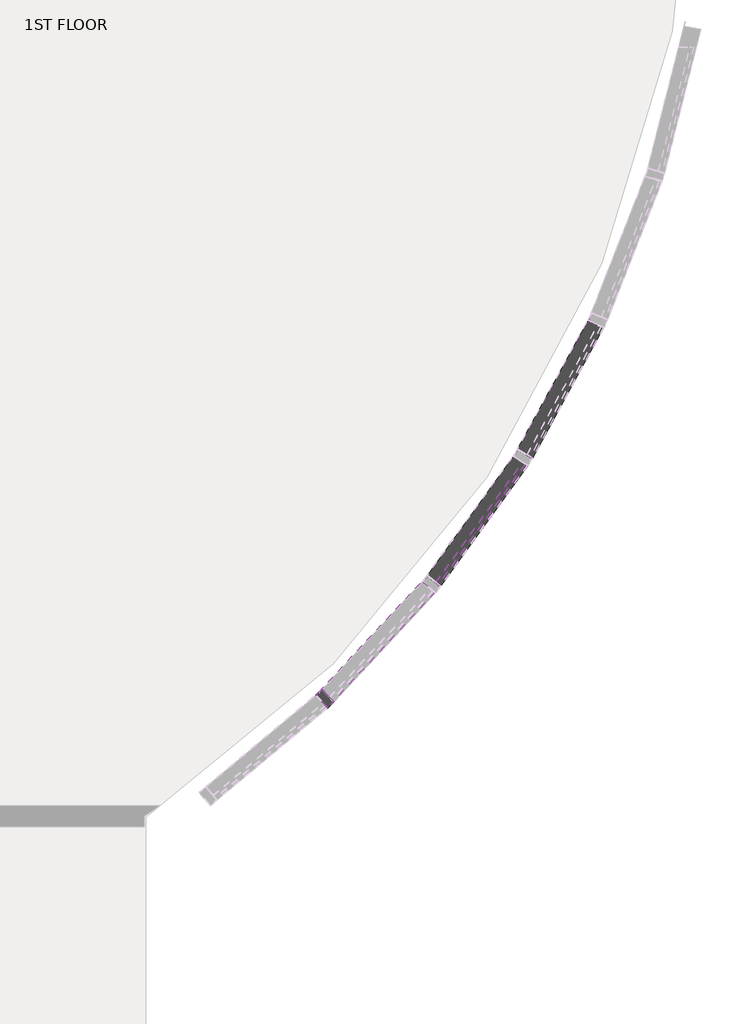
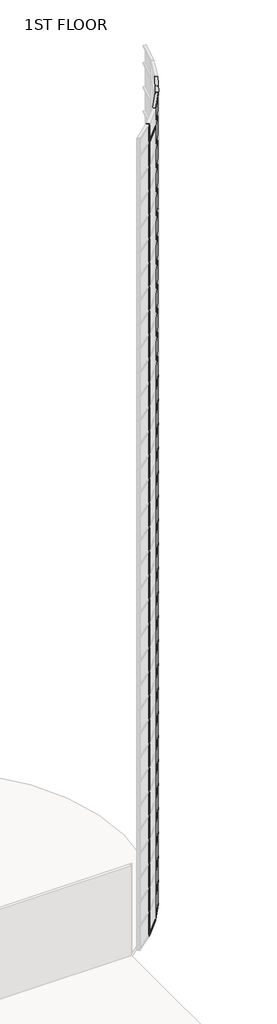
# One storey, part 5 of 17: 83 members, 34 plates.
"""IFC4 building model written with IfcOpenShell, lengths in millimetres."""

from ifc_helpers import new_model, si_unit, origin, place, context, project, spatial, transform, mapped, element, save
from components import member_56cb0dcd, member_0c249660, member_2b49869a, member_410c6227, system_panel_glazed_ce2914f7, system_panel_glazed_e049e42f, system_panel_glazed_5ae89cf9

model = new_model("IFC4")

# Units and contexts
model_context = context("Model", 3, world=origin())
ifc_project = project(units=[si_unit("LENGTHUNIT", "METRE", prefix="MILLI")], contexts=[model_context])

# Site, building, storey
site = spatial("IfcSite", under=ifc_project)
building = spatial("IfcBuilding", under=site)
storey = spatial("IfcBuildingStorey", under=building, Name="1ST FLOOR", Elevation=4572.0)

# Members
placement = place(None, origin())
member_shape = member_56cb0dcd(model_context)
element("IfcMember", 1, ObjectType="Rectangular Mullion : 2.5\" x 5\" rectangular", at=placement, inside=storey, context=model_context, shape_type="MappedRepresentation", body=[
    mapped(member_shape, transform((46857.1097029, 11989.3168429, 45720.0), x_axis=(0.0, 0.0, 1.0), y_axis=(-0.87765646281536, 0.479290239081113, 0.0), z_axis=(-0.479290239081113, -0.87765646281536, 0.0))),
])
element("IfcMember", 2, ObjectType="Rectangular Mullion : 2.5\" x 5\" rectangular", at=placement, inside=storey, context=model_context, shape_type="MappedRepresentation", body=[
    mapped(member_shape, transform((46181.1531398, 11045.2741552, 45720.0), x_axis=(0.0, 0.0, 1.0), y_axis=(-0.8110758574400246, 0.5849409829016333, 0.0), z_axis=(-0.5849409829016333, -0.8110758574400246, 0.0))),
])
element("IfcMember", 3, ObjectType="Rectangular Mullion : 2.5\" x 5\" rectangular", at=placement, inside=storey, context=model_context, shape_type="MappedRepresentation", body=[
    mapped(member_shape, transform((46823.3203616, 11935.6995918, 4572.0), x_axis=(0.0, 0.0, -1.0), y_axis=(-0.811075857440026, 0.5849409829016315, 0.0), z_axis=(0.5849409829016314, 0.8110758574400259, 0.0))),
])
element("IfcMember", 4, ObjectType="Rectangular Mullion : 2.5\" x 5\" rectangular", at=placement, inside=storey, context=model_context, shape_type="MappedRepresentation", body=[
    mapped(member_shape, transform((46140.9446058, 10996.2863711, 4572.0), x_axis=(0.0, 0.0, -1.0), y_axis=(-0.7318464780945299, 0.6814695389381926, 0.0), z_axis=(0.6814695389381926, 0.7318464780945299, 0.0))),
])
member_2_shape = member_0c249660(model_context)
element("IfcMember", 5, ObjectType="Rectangular Mullion : 2.5\" x 5\" rectangular", at=placement, inside=storey, context=model_context, shape_type="MappedRepresentation", body=[
    mapped(member_2_shape, transform((46857.1097029, 11989.3168429, 5791.2), x_axis=(0.0, 0.0, 1.0), y_axis=(-0.8776564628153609, 0.47929023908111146, 0.0), z_axis=(-0.47929023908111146, -0.8776564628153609, 0.0))),
])
element("IfcMember", 6, ObjectType="Rectangular Mullion : 2.5\" x 5\" rectangular", at=placement, inside=storey, context=model_context, shape_type="MappedRepresentation", body=[
    mapped(member_2_shape, transform((46181.1531398, 11045.2741552, 5791.2), x_axis=(0.0, 0.0, 1.0), y_axis=(-0.8110758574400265, 0.5849409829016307, 0.0), z_axis=(-0.5849409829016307, -0.8110758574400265, 0.0))),
])
element("IfcMember", 7, ObjectType="Rectangular Mullion : 2.5\" x 5\" rectangular", at=placement, inside=storey, context=model_context, shape_type="MappedRepresentation", body=[
    mapped(member_2_shape, transform((46857.1097029, 11989.3168429, 7010.4), x_axis=(0.0, 0.0, 1.0), y_axis=(-0.8776564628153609, 0.47929023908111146, 0.0), z_axis=(-0.47929023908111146, -0.8776564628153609, 0.0))),
])
element("IfcMember", 8, ObjectType="Rectangular Mullion : 2.5\" x 5\" rectangular", at=placement, inside=storey, context=model_context, shape_type="MappedRepresentation", body=[
    mapped(member_2_shape, transform((46181.1531398, 11045.2741552, 7010.4), x_axis=(0.0, 0.0, 1.0), y_axis=(-0.8110758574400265, 0.5849409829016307, 0.0), z_axis=(-0.5849409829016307, -0.8110758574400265, 0.0))),
])
element("IfcMember", 9, ObjectType="Rectangular Mullion : 2.5\" x 5\" rectangular", at=placement, inside=storey, context=model_context, shape_type="MappedRepresentation", body=[
    mapped(member_2_shape, transform((46857.1097029, 11989.3168429, 8229.6), x_axis=(0.0, 0.0, 1.0), y_axis=(-0.87765646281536, 0.479290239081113, 0.0), z_axis=(-0.479290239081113, -0.87765646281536, 0.0))),
])
element("IfcMember", 10, ObjectType="Rectangular Mullion : 2.5\" x 5\" rectangular", at=placement, inside=storey, context=model_context, shape_type="MappedRepresentation", body=[
    mapped(member_2_shape, transform((46181.1531398, 11045.2741552, 8229.6), x_axis=(0.0, 0.0, 1.0), y_axis=(-0.8110758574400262, 0.5849409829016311, 0.0), z_axis=(-0.5849409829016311, -0.8110758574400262, 0.0))),
])
element("IfcMember", 11, ObjectType="Rectangular Mullion : 2.5\" x 5\" rectangular", at=placement, inside=storey, context=model_context, shape_type="MappedRepresentation", body=[
    mapped(member_2_shape, transform((46857.1097029, 11989.3168429, 9448.8), x_axis=(0.0, 0.0, 1.0), y_axis=(-0.87765646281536, 0.479290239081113, 0.0), z_axis=(-0.479290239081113, -0.87765646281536, 0.0))),
])
element("IfcMember", 12, ObjectType="Rectangular Mullion : 2.5\" x 5\" rectangular", at=placement, inside=storey, context=model_context, shape_type="MappedRepresentation", body=[
    mapped(member_2_shape, transform((46181.1531398, 11045.2741552, 9448.8), x_axis=(0.0, 0.0, 1.0), y_axis=(-0.8110758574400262, 0.5849409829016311, 0.0), z_axis=(-0.5849409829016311, -0.8110758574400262, 0.0))),
])
element("IfcMember", 13, ObjectType="Rectangular Mullion : 2.5\" x 5\" rectangular", at=placement, inside=storey, context=model_context, shape_type="MappedRepresentation", body=[
    mapped(member_2_shape, transform((46857.1097029, 11989.3168429, 10668.0), x_axis=(0.0, 0.0, 1.0), y_axis=(-0.87765646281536, 0.479290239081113, 0.0), z_axis=(-0.479290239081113, -0.87765646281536, 0.0))),
])
element("IfcMember", 14, ObjectType="Rectangular Mullion : 2.5\" x 5\" rectangular", at=placement, inside=storey, context=model_context, shape_type="MappedRepresentation", body=[
    mapped(member_2_shape, transform((46181.1531398, 11045.2741552, 10668.0), x_axis=(0.0, 0.0, 1.0), y_axis=(-0.8110758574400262, 0.5849409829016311, 0.0), z_axis=(-0.5849409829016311, -0.8110758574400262, 0.0))),
])
element("IfcMember", 15, ObjectType="Rectangular Mullion : 2.5\" x 5\" rectangular", at=placement, inside=storey, context=model_context, shape_type="MappedRepresentation", body=[
    mapped(member_2_shape, transform((46857.1097029, 11989.3168429, 11887.2), x_axis=(0.0, 0.0, 1.0), y_axis=(-0.87765646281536, 0.479290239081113, 0.0), z_axis=(-0.479290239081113, -0.87765646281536, 0.0))),
])
element("IfcMember", 16, ObjectType="Rectangular Mullion : 2.5\" x 5\" rectangular", at=placement, inside=storey, context=model_context, shape_type="MappedRepresentation", body=[
    mapped(member_2_shape, transform((46181.1531398, 11045.2741552, 11887.2), x_axis=(0.0, 0.0, 1.0), y_axis=(-0.8110758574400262, 0.5849409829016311, 0.0), z_axis=(-0.5849409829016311, -0.8110758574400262, 0.0))),
])
element("IfcMember", 17, ObjectType="Rectangular Mullion : 2.5\" x 5\" rectangular", at=placement, inside=storey, context=model_context, shape_type="MappedRepresentation", body=[
    mapped(member_2_shape, transform((46857.1097029, 11989.3168429, 13106.4), x_axis=(0.0, 0.0, 1.0), y_axis=(-0.87765646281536, 0.479290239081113, 0.0), z_axis=(-0.479290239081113, -0.87765646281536, 0.0))),
])
element("IfcMember", 18, ObjectType="Rectangular Mullion : 2.5\" x 5\" rectangular", at=placement, inside=storey, context=model_context, shape_type="MappedRepresentation", body=[
    mapped(member_2_shape, transform((46181.1531398, 11045.2741552, 13106.4), x_axis=(0.0, 0.0, 1.0), y_axis=(-0.8110758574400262, 0.5849409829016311, 0.0), z_axis=(-0.5849409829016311, -0.8110758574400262, 0.0))),
])
element("IfcMember", 19, ObjectType="Rectangular Mullion : 2.5\" x 5\" rectangular", at=placement, inside=storey, context=model_context, shape_type="MappedRepresentation", body=[
    mapped(member_2_shape, transform((46857.1097029, 11989.3168429, 14325.6), x_axis=(0.0, 0.0, 1.0), y_axis=(-0.87765646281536, 0.479290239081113, 0.0), z_axis=(-0.479290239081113, -0.87765646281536, 0.0))),
])
element("IfcMember", 20, ObjectType="Rectangular Mullion : 2.5\" x 5\" rectangular", at=placement, inside=storey, context=model_context, shape_type="MappedRepresentation", body=[
    mapped(member_2_shape, transform((46181.1531398, 11045.2741552, 14325.6), x_axis=(0.0, 0.0, 1.0), y_axis=(-0.8110758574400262, 0.5849409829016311, 0.0), z_axis=(-0.5849409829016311, -0.8110758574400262, 0.0))),
])
element("IfcMember", 21, ObjectType="Rectangular Mullion : 2.5\" x 5\" rectangular", at=placement, inside=storey, context=model_context, shape_type="MappedRepresentation", body=[
    mapped(member_2_shape, transform((46857.1097029, 11989.3168429, 15544.8), x_axis=(0.0, 0.0, 1.0), y_axis=(-0.87765646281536, 0.479290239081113, 0.0), z_axis=(-0.479290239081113, -0.87765646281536, 0.0))),
])
element("IfcMember", 22, ObjectType="Rectangular Mullion : 2.5\" x 5\" rectangular", at=placement, inside=storey, context=model_context, shape_type="MappedRepresentation", body=[
    mapped(member_2_shape, transform((46181.1531398, 11045.2741552, 15544.8), x_axis=(0.0, 0.0, 1.0), y_axis=(-0.8110758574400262, 0.5849409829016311, 0.0), z_axis=(-0.5849409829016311, -0.8110758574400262, 0.0))),
])
element("IfcMember", 23, ObjectType="Rectangular Mullion : 2.5\" x 5\" rectangular", at=placement, inside=storey, context=model_context, shape_type="MappedRepresentation", body=[
    mapped(member_2_shape, transform((46857.1097029, 11989.3168429, 16764.0), x_axis=(0.0, 0.0, 1.0), y_axis=(-0.87765646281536, 0.479290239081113, 0.0), z_axis=(-0.479290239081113, -0.87765646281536, 0.0))),
])
element("IfcMember", 24, ObjectType="Rectangular Mullion : 2.5\" x 5\" rectangular", at=placement, inside=storey, context=model_context, shape_type="MappedRepresentation", body=[
    mapped(member_2_shape, transform((46181.1531398, 11045.2741552, 16764.0), x_axis=(0.0, 0.0, 1.0), y_axis=(-0.8110758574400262, 0.5849409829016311, 0.0), z_axis=(-0.5849409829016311, -0.8110758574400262, 0.0))),
])
element("IfcMember", 25, ObjectType="Rectangular Mullion : 2.5\" x 5\" rectangular", at=placement, inside=storey, context=model_context, shape_type="MappedRepresentation", body=[
    mapped(member_2_shape, transform((46857.1097029, 11989.3168429, 17983.2), x_axis=(0.0, 0.0, 1.0), y_axis=(-0.87765646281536, 0.479290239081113, 0.0), z_axis=(-0.479290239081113, -0.87765646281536, 0.0))),
])
element("IfcMember", 26, ObjectType="Rectangular Mullion : 2.5\" x 5\" rectangular", at=placement, inside=storey, context=model_context, shape_type="MappedRepresentation", body=[
    mapped(member_2_shape, transform((46181.1531398, 11045.2741552, 17983.2), x_axis=(0.0, 0.0, 1.0), y_axis=(-0.8110758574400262, 0.5849409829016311, 0.0), z_axis=(-0.5849409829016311, -0.8110758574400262, 0.0))),
])
element("IfcMember", 27, ObjectType="Rectangular Mullion : 2.5\" x 5\" rectangular", at=placement, inside=storey, context=model_context, shape_type="MappedRepresentation", body=[
    mapped(member_2_shape, transform((46857.1097029, 11989.3168429, 19202.4), x_axis=(0.0, 0.0, 1.0), y_axis=(-0.8776564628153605, 0.47929023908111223, 0.0), z_axis=(-0.47929023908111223, -0.8776564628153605, 0.0))),
])
element("IfcMember", 28, ObjectType="Rectangular Mullion : 2.5\" x 5\" rectangular", at=placement, inside=storey, context=model_context, shape_type="MappedRepresentation", body=[
    mapped(member_2_shape, transform((46181.1531398, 11045.2741552, 19202.4), x_axis=(0.0, 0.0, 1.0), y_axis=(-0.8110758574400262, 0.5849409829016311, 0.0), z_axis=(-0.5849409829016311, -0.8110758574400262, 0.0))),
])
element("IfcMember", 29, ObjectType="Rectangular Mullion : 2.5\" x 5\" rectangular", at=placement, inside=storey, context=model_context, shape_type="MappedRepresentation", body=[
    mapped(member_2_shape, transform((46857.1097029, 11989.3168429, 20421.6), x_axis=(0.0, 0.0, 1.0), y_axis=(-0.877656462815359, 0.4792902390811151, 0.0), z_axis=(-0.47929023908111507, -0.8776564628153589, 0.0))),
])
element("IfcMember", 30, ObjectType="Rectangular Mullion : 2.5\" x 5\" rectangular", at=placement, inside=storey, context=model_context, shape_type="MappedRepresentation", body=[
    mapped(member_2_shape, transform((46181.1531398, 11045.2741552, 20421.6), x_axis=(0.0, 0.0, 1.0), y_axis=(-0.8110758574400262, 0.5849409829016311, 0.0), z_axis=(-0.5849409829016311, -0.8110758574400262, 0.0))),
])
element("IfcMember", 31, ObjectType="Rectangular Mullion : 2.5\" x 5\" rectangular", at=placement, inside=storey, context=model_context, shape_type="MappedRepresentation", body=[
    mapped(member_2_shape, transform((46857.1097029, 11989.3168429, 21640.8), x_axis=(0.0, 0.0, 1.0), y_axis=(-0.877656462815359, 0.4792902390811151, 0.0), z_axis=(-0.47929023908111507, -0.8776564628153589, 0.0))),
])
element("IfcMember", 32, ObjectType="Rectangular Mullion : 2.5\" x 5\" rectangular", at=placement, inside=storey, context=model_context, shape_type="MappedRepresentation", body=[
    mapped(member_2_shape, transform((46181.1531398, 11045.2741552, 21640.8), x_axis=(0.0, 0.0, 1.0), y_axis=(-0.8110758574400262, 0.5849409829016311, 0.0), z_axis=(-0.5849409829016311, -0.8110758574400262, 0.0))),
])
element("IfcMember", 33, ObjectType="Rectangular Mullion : 2.5\" x 5\" rectangular", at=placement, inside=storey, context=model_context, shape_type="MappedRepresentation", body=[
    mapped(member_2_shape, transform((46857.1097029, 11989.3168429, 22860.0), x_axis=(0.0, 0.0, 1.0), y_axis=(-0.8776564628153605, 0.47929023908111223, 0.0), z_axis=(-0.47929023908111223, -0.8776564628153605, 0.0))),
])
element("IfcMember", 34, ObjectType="Rectangular Mullion : 2.5\" x 5\" rectangular", at=placement, inside=storey, context=model_context, shape_type="MappedRepresentation", body=[
    mapped(member_2_shape, transform((46181.1531398, 11045.2741552, 22860.0), x_axis=(0.0, 0.0, 1.0), y_axis=(-0.8110758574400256, 0.584940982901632, 0.0), z_axis=(-0.584940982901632, -0.8110758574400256, 0.0))),
])
element("IfcMember", 35, ObjectType="Rectangular Mullion : 2.5\" x 5\" rectangular", at=placement, inside=storey, context=model_context, shape_type="MappedRepresentation", body=[
    mapped(member_2_shape, transform((46857.1097029, 11989.3168429, 24079.2), x_axis=(0.0, 0.0, 1.0), y_axis=(-0.8776564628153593, 0.4792902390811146, 0.0), z_axis=(-0.47929023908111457, -0.8776564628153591, 0.0))),
])
element("IfcMember", 36, ObjectType="Rectangular Mullion : 2.5\" x 5\" rectangular", at=placement, inside=storey, context=model_context, shape_type="MappedRepresentation", body=[
    mapped(member_2_shape, transform((46181.1531398, 11045.2741552, 24079.2), x_axis=(0.0, 0.0, 1.0), y_axis=(-0.8110758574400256, 0.584940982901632, 0.0), z_axis=(-0.584940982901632, -0.8110758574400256, 0.0))),
])
element("IfcMember", 37, ObjectType="Rectangular Mullion : 2.5\" x 5\" rectangular", at=placement, inside=storey, context=model_context, shape_type="MappedRepresentation", body=[
    mapped(member_2_shape, transform((46857.1097029, 11989.3168429, 25298.4), x_axis=(0.0, 0.0, 1.0), y_axis=(-0.8776564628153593, 0.4792902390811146, 0.0), z_axis=(-0.47929023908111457, -0.8776564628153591, 0.0))),
])
element("IfcMember", 38, ObjectType="Rectangular Mullion : 2.5\" x 5\" rectangular", at=placement, inside=storey, context=model_context, shape_type="MappedRepresentation", body=[
    mapped(member_2_shape, transform((46181.1531398, 11045.2741552, 25298.4), x_axis=(0.0, 0.0, 1.0), y_axis=(-0.8110758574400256, 0.584940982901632, 0.0), z_axis=(-0.584940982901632, -0.8110758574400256, 0.0))),
])
element("IfcMember", 39, ObjectType="Rectangular Mullion : 2.5\" x 5\" rectangular", at=placement, inside=storey, context=model_context, shape_type="MappedRepresentation", body=[
    mapped(member_2_shape, transform((46857.1097029, 11989.3168429, 26517.6), x_axis=(0.0, 0.0, 1.0), y_axis=(-0.8776564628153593, 0.4792902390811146, 0.0), z_axis=(-0.47929023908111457, -0.8776564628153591, 0.0))),
])
element("IfcMember", 40, ObjectType="Rectangular Mullion : 2.5\" x 5\" rectangular", at=placement, inside=storey, context=model_context, shape_type="MappedRepresentation", body=[
    mapped(member_2_shape, transform((46181.1531398, 11045.2741552, 26517.6), x_axis=(0.0, 0.0, 1.0), y_axis=(-0.8110758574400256, 0.584940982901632, 0.0), z_axis=(-0.584940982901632, -0.8110758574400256, 0.0))),
])
element("IfcMember", 41, ObjectType="Rectangular Mullion : 2.5\" x 5\" rectangular", at=placement, inside=storey, context=model_context, shape_type="MappedRepresentation", body=[
    mapped(member_2_shape, transform((46857.1097029, 11989.3168429, 27736.8), x_axis=(0.0, 0.0, 1.0), y_axis=(-0.8776564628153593, 0.4792902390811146, 0.0), z_axis=(-0.47929023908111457, -0.8776564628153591, 0.0))),
])
element("IfcMember", 42, ObjectType="Rectangular Mullion : 2.5\" x 5\" rectangular", at=placement, inside=storey, context=model_context, shape_type="MappedRepresentation", body=[
    mapped(member_2_shape, transform((46181.1531398, 11045.2741552, 27736.8), x_axis=(0.0, 0.0, 1.0), y_axis=(-0.8110758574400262, 0.5849409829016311, 0.0), z_axis=(-0.5849409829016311, -0.8110758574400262, 0.0))),
])
element("IfcMember", 43, ObjectType="Rectangular Mullion : 2.5\" x 5\" rectangular", at=placement, inside=storey, context=model_context, shape_type="MappedRepresentation", body=[
    mapped(member_2_shape, transform((46857.1097029, 11989.3168429, 28956.0), x_axis=(0.0, 0.0, 1.0), y_axis=(-0.8776564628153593, 0.4792902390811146, 0.0), z_axis=(-0.47929023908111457, -0.8776564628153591, 0.0))),
])
element("IfcMember", 44, ObjectType="Rectangular Mullion : 2.5\" x 5\" rectangular", at=placement, inside=storey, context=model_context, shape_type="MappedRepresentation", body=[
    mapped(member_2_shape, transform((46181.1531398, 11045.2741552, 28956.0), x_axis=(0.0, 0.0, 1.0), y_axis=(-0.8110758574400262, 0.5849409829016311, 0.0), z_axis=(-0.5849409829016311, -0.8110758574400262, 0.0))),
])
element("IfcMember", 45, ObjectType="Rectangular Mullion : 2.5\" x 5\" rectangular", at=placement, inside=storey, context=model_context, shape_type="MappedRepresentation", body=[
    mapped(member_2_shape, transform((46857.1097029, 11989.3168429, 30175.2), x_axis=(0.0, 0.0, 1.0), y_axis=(-0.87765646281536, 0.479290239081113, 0.0), z_axis=(-0.479290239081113, -0.87765646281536, 0.0))),
])
element("IfcMember", 46, ObjectType="Rectangular Mullion : 2.5\" x 5\" rectangular", at=placement, inside=storey, context=model_context, shape_type="MappedRepresentation", body=[
    mapped(member_2_shape, transform((46181.1531398, 11045.2741552, 30175.2), x_axis=(0.0, 0.0, 1.0), y_axis=(-0.8110758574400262, 0.5849409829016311, 0.0), z_axis=(-0.5849409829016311, -0.8110758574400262, 0.0))),
])
element("IfcMember", 47, ObjectType="Rectangular Mullion : 2.5\" x 5\" rectangular", at=placement, inside=storey, context=model_context, shape_type="MappedRepresentation", body=[
    mapped(member_2_shape, transform((46857.1097029, 11989.3168429, 31394.4), x_axis=(0.0, 0.0, 1.0), y_axis=(-0.87765646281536, 0.479290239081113, 0.0), z_axis=(-0.479290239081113, -0.87765646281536, 0.0))),
])
element("IfcMember", 48, ObjectType="Rectangular Mullion : 2.5\" x 5\" rectangular", at=placement, inside=storey, context=model_context, shape_type="MappedRepresentation", body=[
    mapped(member_2_shape, transform((46181.1531398, 11045.2741552, 31394.4), x_axis=(0.0, 0.0, 1.0), y_axis=(-0.8110758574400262, 0.5849409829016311, 0.0), z_axis=(-0.5849409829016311, -0.8110758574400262, 0.0))),
])
element("IfcMember", 49, ObjectType="Rectangular Mullion : 2.5\" x 5\" rectangular", at=placement, inside=storey, context=model_context, shape_type="MappedRepresentation", body=[
    mapped(member_2_shape, transform((45392.8051979, 10192.8415222, 44805.6), x_axis=(0.0, 0.0, 1.0), y_axis=(-0.7318464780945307, 0.6814695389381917, 0.0), z_axis=(-0.6814695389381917, -0.7318464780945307, 0.0))),
])
member_3_shape = member_2b49869a(model_context)
element("IfcMember", 50, ObjectType="Rectangular Mullion : 2.5\" x 5\" rectangular", at=placement, inside=storey, context=model_context, shape_type="MappedRepresentation", body=[
    mapped(member_3_shape, transform((45371.1685401, 10169.6053965, 4572.0), x_axis=(-0.7258363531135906, -0.6878674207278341, 0.0), y_axis=(-0.6878674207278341, 0.7258363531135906, 0.0), z_axis=(0.0, 0.0, -1.0))),
])
element("IfcMember", 51, ObjectType="Rectangular Mullion : 2.5\" x 5\" rectangular", at=placement, inside=storey, context=model_context, shape_type="MappedRepresentation", body=[
    mapped(member_3_shape, transform((45371.1685401, 10169.6053965, 5791.2), x_axis=(-0.7258363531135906, -0.6878674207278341, 0.0), y_axis=(-0.6878674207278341, 0.7258363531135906, 0.0), z_axis=(0.0, 0.0, -1.0))),
])
element("IfcMember", 52, ObjectType="Rectangular Mullion : 2.5\" x 5\" rectangular", at=placement, inside=storey, context=model_context, shape_type="MappedRepresentation", body=[
    mapped(member_3_shape, transform((45371.1685401, 10169.6053965, 7010.4), x_axis=(-0.7258363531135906, -0.6878674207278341, 0.0), y_axis=(-0.6878674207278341, 0.7258363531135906, 0.0), z_axis=(0.0, 0.0, -1.0))),
])
element("IfcMember", 53, ObjectType="Rectangular Mullion : 2.5\" x 5\" rectangular", at=placement, inside=storey, context=model_context, shape_type="MappedRepresentation", body=[
    mapped(member_3_shape, transform((45371.1685401, 10169.6053965, 8229.6), x_axis=(-0.7258363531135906, -0.6878674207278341, 0.0), y_axis=(-0.6878674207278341, 0.7258363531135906, 0.0), z_axis=(0.0, 0.0, -1.0))),
])
element("IfcMember", 54, ObjectType="Rectangular Mullion : 2.5\" x 5\" rectangular", at=placement, inside=storey, context=model_context, shape_type="MappedRepresentation", body=[
    mapped(member_3_shape, transform((45371.1685401, 10169.6053965, 9448.8), x_axis=(-0.7258363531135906, -0.6878674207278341, 0.0), y_axis=(-0.6878674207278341, 0.7258363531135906, 0.0), z_axis=(0.0, 0.0, -1.0))),
])
element("IfcMember", 55, ObjectType="Rectangular Mullion : 2.5\" x 5\" rectangular", at=placement, inside=storey, context=model_context, shape_type="MappedRepresentation", body=[
    mapped(member_3_shape, transform((45371.1685401, 10169.6053965, 10668.0), x_axis=(-0.7258363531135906, -0.6878674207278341, 0.0), y_axis=(-0.6878674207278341, 0.7258363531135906, 0.0), z_axis=(0.0, 0.0, -1.0))),
])
element("IfcMember", 56, ObjectType="Rectangular Mullion : 2.5\" x 5\" rectangular", at=placement, inside=storey, context=model_context, shape_type="MappedRepresentation", body=[
    mapped(member_3_shape, transform((45371.1685401, 10169.6053965, 11887.2), x_axis=(-0.7258363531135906, -0.6878674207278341, 0.0), y_axis=(-0.6878674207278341, 0.7258363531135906, 0.0), z_axis=(0.0, 0.0, -1.0))),
])
element("IfcMember", 57, ObjectType="Rectangular Mullion : 2.5\" x 5\" rectangular", at=placement, inside=storey, context=model_context, shape_type="MappedRepresentation", body=[
    mapped(member_3_shape, transform((45371.1685401, 10169.6053965, 13106.4), x_axis=(-0.7258363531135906, -0.6878674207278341, 0.0), y_axis=(-0.6878674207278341, 0.7258363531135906, 0.0), z_axis=(0.0, 0.0, -1.0))),
])
element("IfcMember", 58, ObjectType="Rectangular Mullion : 2.5\" x 5\" rectangular", at=placement, inside=storey, context=model_context, shape_type="MappedRepresentation", body=[
    mapped(member_3_shape, transform((45371.1685401, 10169.6053965, 14325.6), x_axis=(-0.7258363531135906, -0.6878674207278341, 0.0), y_axis=(-0.6878674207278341, 0.7258363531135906, 0.0), z_axis=(0.0, 0.0, -1.0))),
])
element("IfcMember", 59, ObjectType="Rectangular Mullion : 2.5\" x 5\" rectangular", at=placement, inside=storey, context=model_context, shape_type="MappedRepresentation", body=[
    mapped(member_3_shape, transform((45371.1685401, 10169.6053965, 15544.8), x_axis=(-0.7258363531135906, -0.6878674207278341, 0.0), y_axis=(-0.6878674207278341, 0.7258363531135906, 0.0), z_axis=(0.0, 0.0, -1.0))),
])
element("IfcMember", 60, ObjectType="Rectangular Mullion : 2.5\" x 5\" rectangular", at=placement, inside=storey, context=model_context, shape_type="MappedRepresentation", body=[
    mapped(member_3_shape, transform((45371.1685401, 10169.6053965, 16764.0), x_axis=(-0.7258363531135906, -0.6878674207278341, 0.0), y_axis=(-0.6878674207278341, 0.7258363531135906, 0.0), z_axis=(0.0, 0.0, -1.0))),
])
element("IfcMember", 61, ObjectType="Rectangular Mullion : 2.5\" x 5\" rectangular", at=placement, inside=storey, context=model_context, shape_type="MappedRepresentation", body=[
    mapped(member_3_shape, transform((45371.1685401, 10169.6053965, 17983.2), x_axis=(-0.7258363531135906, -0.6878674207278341, 0.0), y_axis=(-0.6878674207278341, 0.7258363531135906, 0.0), z_axis=(0.0, 0.0, -1.0))),
])
element("IfcMember", 62, ObjectType="Rectangular Mullion : 2.5\" x 5\" rectangular", at=placement, inside=storey, context=model_context, shape_type="MappedRepresentation", body=[
    mapped(member_3_shape, transform((45371.1685401, 10169.6053965, 19202.4), x_axis=(-0.7258363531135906, -0.6878674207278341, 0.0), y_axis=(-0.6878674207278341, 0.7258363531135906, 0.0), z_axis=(0.0, 0.0, -1.0))),
])
element("IfcMember", 63, ObjectType="Rectangular Mullion : 2.5\" x 5\" rectangular", at=placement, inside=storey, context=model_context, shape_type="MappedRepresentation", body=[
    mapped(member_3_shape, transform((45371.1685401, 10169.6053965, 20421.6), x_axis=(-0.7258363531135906, -0.6878674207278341, 0.0), y_axis=(-0.6878674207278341, 0.7258363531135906, 0.0), z_axis=(0.0, 0.0, -1.0))),
])
element("IfcMember", 64, ObjectType="Rectangular Mullion : 2.5\" x 5\" rectangular", at=placement, inside=storey, context=model_context, shape_type="MappedRepresentation", body=[
    mapped(member_3_shape, transform((45371.1685401, 10169.6053965, 21640.8), x_axis=(-0.7258363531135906, -0.6878674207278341, 0.0), y_axis=(-0.6878674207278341, 0.7258363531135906, 0.0), z_axis=(0.0, 0.0, -1.0))),
])
element("IfcMember", 65, ObjectType="Rectangular Mullion : 2.5\" x 5\" rectangular", at=placement, inside=storey, context=model_context, shape_type="MappedRepresentation", body=[
    mapped(member_3_shape, transform((45371.1685401, 10169.6053965, 22860.0), x_axis=(-0.7258363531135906, -0.6878674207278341, 0.0), y_axis=(-0.6878674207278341, 0.7258363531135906, 0.0), z_axis=(0.0, 0.0, -1.0))),
])
element("IfcMember", 66, ObjectType="Rectangular Mullion : 2.5\" x 5\" rectangular", at=placement, inside=storey, context=model_context, shape_type="MappedRepresentation", body=[
    mapped(member_3_shape, transform((45371.1685401, 10169.6053965, 24079.2), x_axis=(-0.7258363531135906, -0.6878674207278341, 0.0), y_axis=(-0.6878674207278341, 0.7258363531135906, 0.0), z_axis=(0.0, 0.0, -1.0))),
])
element("IfcMember", 67, ObjectType="Rectangular Mullion : 2.5\" x 5\" rectangular", at=placement, inside=storey, context=model_context, shape_type="MappedRepresentation", body=[
    mapped(member_3_shape, transform((45371.1685401, 10169.6053965, 25298.4), x_axis=(-0.7258363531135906, -0.6878674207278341, 0.0), y_axis=(-0.6878674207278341, 0.7258363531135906, 0.0), z_axis=(0.0, 0.0, -1.0))),
])
element("IfcMember", 68, ObjectType="Rectangular Mullion : 2.5\" x 5\" rectangular", at=placement, inside=storey, context=model_context, shape_type="MappedRepresentation", body=[
    mapped(member_3_shape, transform((45371.1685401, 10169.6053965, 26517.6), x_axis=(-0.7258363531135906, -0.6878674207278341, 0.0), y_axis=(-0.6878674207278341, 0.7258363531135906, 0.0), z_axis=(0.0, 0.0, -1.0))),
])
element("IfcMember", 69, ObjectType="Rectangular Mullion : 2.5\" x 5\" rectangular", at=placement, inside=storey, context=model_context, shape_type="MappedRepresentation", body=[
    mapped(member_3_shape, transform((45371.1685401, 10169.6053965, 27736.8), x_axis=(-0.7258363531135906, -0.6878674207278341, 0.0), y_axis=(-0.6878674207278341, 0.7258363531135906, 0.0), z_axis=(0.0, 0.0, -1.0))),
])
element("IfcMember", 70, ObjectType="Rectangular Mullion : 2.5\" x 5\" rectangular", at=placement, inside=storey, context=model_context, shape_type="MappedRepresentation", body=[
    mapped(member_3_shape, transform((45371.1685401, 10169.6053965, 28956.0), x_axis=(-0.7258363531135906, -0.6878674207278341, 0.0), y_axis=(-0.6878674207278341, 0.7258363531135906, 0.0), z_axis=(0.0, 0.0, -1.0))),
])
element("IfcMember", 71, ObjectType="Rectangular Mullion : 2.5\" x 5\" rectangular", at=placement, inside=storey, context=model_context, shape_type="MappedRepresentation", body=[
    mapped(member_3_shape, transform((45371.1685401, 10169.6053965, 30175.2), x_axis=(-0.7258363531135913, -0.6878674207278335, 0.0), y_axis=(-0.6878674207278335, 0.7258363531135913, 0.0), z_axis=(0.0, 0.0, -1.0))),
])
element("IfcMember", 72, ObjectType="Rectangular Mullion : 2.5\" x 5\" rectangular", at=placement, inside=storey, context=model_context, shape_type="MappedRepresentation", body=[
    mapped(member_3_shape, transform((45371.1685401, 10169.6053965, 31394.4), x_axis=(-0.7258363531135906, -0.6878674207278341, 0.0), y_axis=(-0.6878674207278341, 0.7258363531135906, 0.0), z_axis=(0.0, 0.0, -1.0))),
])
element("IfcMember", 73, ObjectType="Rectangular Mullion : 2.5\" x 5\" rectangular", at=placement, inside=storey, context=model_context, shape_type="MappedRepresentation", body=[
    mapped(member_3_shape, transform((45371.1685401, 10169.6053965, 32613.6), x_axis=(-0.7258363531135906, -0.6878674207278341, 0.0), y_axis=(-0.6878674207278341, 0.7258363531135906, 0.0), z_axis=(0.0, 0.0, -1.0))),
])
element("IfcMember", 74, ObjectType="Rectangular Mullion : 2.5\" x 5\" rectangular", at=placement, inside=storey, context=model_context, shape_type="MappedRepresentation", body=[
    mapped(member_3_shape, transform((45371.1685401, 10169.6053965, 33832.8), x_axis=(-0.7258363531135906, -0.6878674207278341, 0.0), y_axis=(-0.6878674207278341, 0.7258363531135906, 0.0), z_axis=(0.0, 0.0, -1.0))),
])
element("IfcMember", 75, ObjectType="Rectangular Mullion : 2.5\" x 5\" rectangular", at=placement, inside=storey, context=model_context, shape_type="MappedRepresentation", body=[
    mapped(member_3_shape, transform((45371.1685401, 10169.6053965, 35052.0), x_axis=(-0.7258363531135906, -0.6878674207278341, 0.0), y_axis=(-0.6878674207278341, 0.7258363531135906, 0.0), z_axis=(0.0, 0.0, -1.0))),
])
element("IfcMember", 76, ObjectType="Rectangular Mullion : 2.5\" x 5\" rectangular", at=placement, inside=storey, context=model_context, shape_type="MappedRepresentation", body=[
    mapped(member_3_shape, transform((45371.1685401, 10169.6053965, 36271.2), x_axis=(-0.7258363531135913, -0.6878674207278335, 0.0), y_axis=(-0.6878674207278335, 0.7258363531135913, 0.0), z_axis=(0.0, 0.0, -1.0))),
])
element("IfcMember", 77, ObjectType="Rectangular Mullion : 2.5\" x 5\" rectangular", at=placement, inside=storey, context=model_context, shape_type="MappedRepresentation", body=[
    mapped(member_3_shape, transform((45371.1685401, 10169.6053965, 37490.4), x_axis=(-0.7258363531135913, -0.6878674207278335, 0.0), y_axis=(-0.6878674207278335, 0.7258363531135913, 0.0), z_axis=(0.0, 0.0, -1.0))),
])
element("IfcMember", 78, ObjectType="Rectangular Mullion : 2.5\" x 5\" rectangular", at=placement, inside=storey, context=model_context, shape_type="MappedRepresentation", body=[
    mapped(member_3_shape, transform((45371.1685401, 10169.6053965, 38709.6), x_axis=(-0.7258363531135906, -0.6878674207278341, 0.0), y_axis=(-0.6878674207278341, 0.7258363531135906, 0.0), z_axis=(0.0, 0.0, -1.0))),
])
element("IfcMember", 79, ObjectType="Rectangular Mullion : 2.5\" x 5\" rectangular", at=placement, inside=storey, context=model_context, shape_type="MappedRepresentation", body=[
    mapped(member_3_shape, transform((45371.1685401, 10169.6053965, 39928.8), x_axis=(-0.7258363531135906, -0.6878674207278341, 0.0), y_axis=(-0.6878674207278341, 0.7258363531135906, 0.0), z_axis=(0.0, 0.0, -1.0))),
])
element("IfcMember", 80, ObjectType="Rectangular Mullion : 2.5\" x 5\" rectangular", at=placement, inside=storey, context=model_context, shape_type="MappedRepresentation", body=[
    mapped(member_3_shape, transform((45371.1685401, 10169.6053965, 41148.0), x_axis=(-0.7258363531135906, -0.6878674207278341, 0.0), y_axis=(-0.6878674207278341, 0.7258363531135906, 0.0), z_axis=(0.0, 0.0, -1.0))),
])
element("IfcMember", 81, ObjectType="Rectangular Mullion : 2.5\" x 5\" rectangular", at=placement, inside=storey, context=model_context, shape_type="MappedRepresentation", body=[
    mapped(member_3_shape, transform((45371.1685401, 10169.6053965, 42367.2), x_axis=(-0.7258363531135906, -0.6878674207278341, 0.0), y_axis=(-0.6878674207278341, 0.7258363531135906, 0.0), z_axis=(0.0, 0.0, -1.0))),
])
element("IfcMember", 82, ObjectType="Rectangular Mullion : 2.5\" x 5\" rectangular", at=placement, inside=storey, context=model_context, shape_type="MappedRepresentation", body=[
    mapped(member_3_shape, transform((45371.1685401, 10169.6053965, 43586.4), x_axis=(-0.7258363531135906, -0.6878674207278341, 0.0), y_axis=(-0.6878674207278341, 0.7258363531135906, 0.0), z_axis=(0.0, 0.0, -1.0))),
])
member_4_shape = member_410c6227(model_context)
element("IfcMember", 83, ObjectType="Rectangular Mullion : 2.5\" x 5\" rectangular", at=placement, inside=storey, context=model_context, shape_type="MappedRepresentation", body=[
    mapped(member_4_shape, transform((45371.1685401, 10169.6053965, 44805.6), x_axis=(-0.7258363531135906, -0.6878674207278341, 0.0), y_axis=(-0.6878674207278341, 0.7258363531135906, 0.0), z_axis=(0.0, 0.0, -1.0))),
])

# Plates
system_panel_glazed_shape = system_panel_glazed_ce2914f7(model_context)
element("IfcPlate", 84, ObjectType="System Panel : Glazed", at=placement, inside=storey, context=model_context, shape_type="MappedRepresentation", body=[
    mapped(system_panel_glazed_shape, transform((46502.2367507, 11490.4868735, 4635.5), x_axis=(-0.5849409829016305, -0.8110758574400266, 0.0), y_axis=(0.8110758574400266, -0.5849409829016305, 0.0), z_axis=(0.0, 0.0, 1.0))),
])
system_panel_glazed_2_shape = system_panel_glazed_e049e42f(model_context)
element("IfcPlate", 85, ObjectType="System Panel : Glazed", at=placement, inside=storey, context=model_context, shape_type="MappedRepresentation", body=[
    mapped(system_panel_glazed_2_shape, transform((46502.2367507, 11490.4868735, 5822.95), x_axis=(-0.5849409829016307, -0.8110758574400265, 0.0), y_axis=(0.8110758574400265, -0.5849409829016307, 0.0), z_axis=(0.0, 0.0, 1.0))),
])
element("IfcPlate", 86, ObjectType="System Panel : Glazed", at=placement, inside=storey, context=model_context, shape_type="MappedRepresentation", body=[
    mapped(system_panel_glazed_2_shape, transform((46502.2367507, 11490.4868735, 7042.15), x_axis=(-0.5849409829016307, -0.8110758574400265, 0.0), y_axis=(0.8110758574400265, -0.5849409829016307, 0.0), z_axis=(0.0, 0.0, 1.0))),
])
element("IfcPlate", 87, ObjectType="System Panel : Glazed", at=placement, inside=storey, context=model_context, shape_type="MappedRepresentation", body=[
    mapped(system_panel_glazed_2_shape, transform((46502.2367507, 11490.4868735, 8261.35), x_axis=(-0.5849409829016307, -0.8110758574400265, 0.0), y_axis=(0.8110758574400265, -0.5849409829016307, 0.0), z_axis=(0.0, 0.0, 1.0))),
])
element("IfcPlate", 88, ObjectType="System Panel : Glazed", at=placement, inside=storey, context=model_context, shape_type="MappedRepresentation", body=[
    mapped(system_panel_glazed_2_shape, transform((46502.2367507, 11490.4868735, 9480.55), x_axis=(-0.5849409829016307, -0.8110758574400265, 0.0), y_axis=(0.8110758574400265, -0.5849409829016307, 0.0), z_axis=(0.0, 0.0, 1.0))),
])
element("IfcPlate", 89, ObjectType="System Panel : Glazed", at=placement, inside=storey, context=model_context, shape_type="MappedRepresentation", body=[
    mapped(system_panel_glazed_2_shape, transform((46502.2367507, 11490.4868735, 10699.75), x_axis=(-0.5849409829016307, -0.8110758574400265, 0.0), y_axis=(0.8110758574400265, -0.5849409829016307, 0.0), z_axis=(0.0, 0.0, 1.0))),
])
element("IfcPlate", 90, ObjectType="System Panel : Glazed", at=placement, inside=storey, context=model_context, shape_type="MappedRepresentation", body=[
    mapped(system_panel_glazed_2_shape, transform((46502.2367507, 11490.4868735, 11918.95), x_axis=(-0.5849409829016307, -0.8110758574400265, 0.0), y_axis=(0.8110758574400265, -0.5849409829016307, 0.0), z_axis=(0.0, 0.0, 1.0))),
])
element("IfcPlate", 91, ObjectType="System Panel : Glazed", at=placement, inside=storey, context=model_context, shape_type="MappedRepresentation", body=[
    mapped(system_panel_glazed_2_shape, transform((46502.2367507, 11490.4868735, 13138.15), x_axis=(-0.5849409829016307, -0.8110758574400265, 0.0), y_axis=(0.8110758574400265, -0.5849409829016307, 0.0), z_axis=(0.0, 0.0, 1.0))),
])
element("IfcPlate", 92, ObjectType="System Panel : Glazed", at=placement, inside=storey, context=model_context, shape_type="MappedRepresentation", body=[
    mapped(system_panel_glazed_2_shape, transform((46502.2367507, 11490.4868735, 14357.35), x_axis=(-0.5849409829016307, -0.8110758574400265, 0.0), y_axis=(0.8110758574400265, -0.5849409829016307, 0.0), z_axis=(0.0, 0.0, 1.0))),
])
element("IfcPlate", 93, ObjectType="System Panel : Glazed", at=placement, inside=storey, context=model_context, shape_type="MappedRepresentation", body=[
    mapped(system_panel_glazed_2_shape, transform((46502.2367507, 11490.4868735, 15576.55), x_axis=(-0.5849409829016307, -0.8110758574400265, 0.0), y_axis=(0.8110758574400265, -0.5849409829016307, 0.0), z_axis=(0.0, 0.0, 1.0))),
])
element("IfcPlate", 94, ObjectType="System Panel : Glazed", at=placement, inside=storey, context=model_context, shape_type="MappedRepresentation", body=[
    mapped(system_panel_glazed_2_shape, transform((46502.2367507, 11490.4868735, 16795.75), x_axis=(-0.5849409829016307, -0.8110758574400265, 0.0), y_axis=(0.8110758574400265, -0.5849409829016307, 0.0), z_axis=(0.0, 0.0, 1.0))),
])
element("IfcPlate", 95, ObjectType="System Panel : Glazed", at=placement, inside=storey, context=model_context, shape_type="MappedRepresentation", body=[
    mapped(system_panel_glazed_2_shape, transform((46502.2367507, 11490.4868735, 18014.95), x_axis=(-0.5849409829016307, -0.8110758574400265, 0.0), y_axis=(0.8110758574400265, -0.5849409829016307, 0.0), z_axis=(0.0, 0.0, 1.0))),
])
element("IfcPlate", 96, ObjectType="System Panel : Glazed", at=placement, inside=storey, context=model_context, shape_type="MappedRepresentation", body=[
    mapped(system_panel_glazed_2_shape, transform((46502.2367507, 11490.4868735, 19234.15), x_axis=(-0.5849409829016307, -0.8110758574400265, 0.0), y_axis=(0.8110758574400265, -0.5849409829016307, 0.0), z_axis=(0.0, 0.0, 1.0))),
])
element("IfcPlate", 97, ObjectType="System Panel : Glazed", at=placement, inside=storey, context=model_context, shape_type="MappedRepresentation", body=[
    mapped(system_panel_glazed_2_shape, transform((46502.2367507, 11490.4868735, 20453.35), x_axis=(-0.5849409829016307, -0.8110758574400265, 0.0), y_axis=(0.8110758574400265, -0.5849409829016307, 0.0), z_axis=(0.0, 0.0, 1.0))),
])
element("IfcPlate", 98, ObjectType="System Panel : Glazed", at=placement, inside=storey, context=model_context, shape_type="MappedRepresentation", body=[
    mapped(system_panel_glazed_2_shape, transform((46502.2367507, 11490.4868735, 21672.55), x_axis=(-0.5849409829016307, -0.8110758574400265, 0.0), y_axis=(0.8110758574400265, -0.5849409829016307, 0.0), z_axis=(0.0, 0.0, 1.0))),
])
element("IfcPlate", 99, ObjectType="System Panel : Glazed", at=placement, inside=storey, context=model_context, shape_type="MappedRepresentation", body=[
    mapped(system_panel_glazed_2_shape, transform((46502.2367507, 11490.4868735, 22891.75), x_axis=(-0.5849409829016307, -0.8110758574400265, 0.0), y_axis=(0.8110758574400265, -0.5849409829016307, 0.0), z_axis=(0.0, 0.0, 1.0))),
])
element("IfcPlate", 100, ObjectType="System Panel : Glazed", at=placement, inside=storey, context=model_context, shape_type="MappedRepresentation", body=[
    mapped(system_panel_glazed_2_shape, transform((46502.2367507, 11490.4868735, 24110.95), x_axis=(-0.5849409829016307, -0.8110758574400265, 0.0), y_axis=(0.8110758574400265, -0.5849409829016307, 0.0), z_axis=(0.0, 0.0, 1.0))),
])
element("IfcPlate", 101, ObjectType="System Panel : Glazed", at=placement, inside=storey, context=model_context, shape_type="MappedRepresentation", body=[
    mapped(system_panel_glazed_2_shape, transform((46502.2367507, 11490.4868735, 25330.15), x_axis=(-0.5849409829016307, -0.8110758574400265, 0.0), y_axis=(0.8110758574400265, -0.5849409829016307, 0.0), z_axis=(0.0, 0.0, 1.0))),
])
element("IfcPlate", 102, ObjectType="System Panel : Glazed", at=placement, inside=storey, context=model_context, shape_type="MappedRepresentation", body=[
    mapped(system_panel_glazed_2_shape, transform((46502.2367507, 11490.4868735, 26549.35), x_axis=(-0.5849409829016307, -0.8110758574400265, 0.0), y_axis=(0.8110758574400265, -0.5849409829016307, 0.0), z_axis=(0.0, 0.0, 1.0))),
])
element("IfcPlate", 103, ObjectType="System Panel : Glazed", at=placement, inside=storey, context=model_context, shape_type="MappedRepresentation", body=[
    mapped(system_panel_glazed_2_shape, transform((46502.2367507, 11490.4868735, 27768.55), x_axis=(-0.5849409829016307, -0.8110758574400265, 0.0), y_axis=(0.8110758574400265, -0.5849409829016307, 0.0), z_axis=(0.0, 0.0, 1.0))),
])
element("IfcPlate", 104, ObjectType="System Panel : Glazed", at=placement, inside=storey, context=model_context, shape_type="MappedRepresentation", body=[
    mapped(system_panel_glazed_2_shape, transform((46502.2367507, 11490.4868735, 28987.75), x_axis=(-0.5849409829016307, -0.8110758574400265, 0.0), y_axis=(0.8110758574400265, -0.5849409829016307, 0.0), z_axis=(0.0, 0.0, 1.0))),
])
element("IfcPlate", 105, ObjectType="System Panel : Glazed", at=placement, inside=storey, context=model_context, shape_type="MappedRepresentation", body=[
    mapped(system_panel_glazed_2_shape, transform((46502.2367507, 11490.4868735, 30206.95), x_axis=(-0.5849409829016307, -0.8110758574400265, 0.0), y_axis=(0.8110758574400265, -0.5849409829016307, 0.0), z_axis=(0.0, 0.0, 1.0))),
])
element("IfcPlate", 106, ObjectType="System Panel : Glazed", at=placement, inside=storey, context=model_context, shape_type="MappedRepresentation", body=[
    mapped(system_panel_glazed_2_shape, transform((46502.2367507, 11490.4868735, 31426.15), x_axis=(-0.5849409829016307, -0.8110758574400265, 0.0), y_axis=(0.8110758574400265, -0.5849409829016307, 0.0), z_axis=(0.0, 0.0, 1.0))),
])
element("IfcPlate", 107, ObjectType="System Panel : Glazed", at=placement, inside=storey, context=model_context, shape_type="MappedRepresentation", body=[
    mapped(system_panel_glazed_2_shape, transform((46502.2367507, 11490.4868735, 32645.35), x_axis=(-0.5849409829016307, -0.8110758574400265, 0.0), y_axis=(0.8110758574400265, -0.5849409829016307, 0.0), z_axis=(0.0, 0.0, 1.0))),
])
element("IfcPlate", 108, ObjectType="System Panel : Glazed", at=placement, inside=storey, context=model_context, shape_type="MappedRepresentation", body=[
    mapped(system_panel_glazed_2_shape, transform((46502.2367507, 11490.4868735, 33864.55), x_axis=(-0.5849409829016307, -0.8110758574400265, 0.0), y_axis=(0.8110758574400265, -0.5849409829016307, 0.0), z_axis=(0.0, 0.0, 1.0))),
])
element("IfcPlate", 109, ObjectType="System Panel : Glazed", at=placement, inside=storey, context=model_context, shape_type="MappedRepresentation", body=[
    mapped(system_panel_glazed_2_shape, transform((46502.2367507, 11490.4868735, 35083.75), x_axis=(-0.5849409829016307, -0.8110758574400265, 0.0), y_axis=(0.8110758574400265, -0.5849409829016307, 0.0), z_axis=(0.0, 0.0, 1.0))),
])
element("IfcPlate", 110, ObjectType="System Panel : Glazed", at=placement, inside=storey, context=model_context, shape_type="MappedRepresentation", body=[
    mapped(system_panel_glazed_2_shape, transform((46502.2367507, 11490.4868735, 36302.95), x_axis=(-0.5849409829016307, -0.8110758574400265, 0.0), y_axis=(0.8110758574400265, -0.5849409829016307, 0.0), z_axis=(0.0, 0.0, 1.0))),
])
element("IfcPlate", 111, ObjectType="System Panel : Glazed", at=placement, inside=storey, context=model_context, shape_type="MappedRepresentation", body=[
    mapped(system_panel_glazed_2_shape, transform((46502.2367507, 11490.4868735, 37522.15), x_axis=(-0.5849409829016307, -0.8110758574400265, 0.0), y_axis=(0.8110758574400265, -0.5849409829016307, 0.0), z_axis=(0.0, 0.0, 1.0))),
])
element("IfcPlate", 112, ObjectType="System Panel : Glazed", at=placement, inside=storey, context=model_context, shape_type="MappedRepresentation", body=[
    mapped(system_panel_glazed_2_shape, transform((46502.2367507, 11490.4868735, 38741.35), x_axis=(-0.5849409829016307, -0.8110758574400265, 0.0), y_axis=(0.8110758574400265, -0.5849409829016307, 0.0), z_axis=(0.0, 0.0, 1.0))),
])
element("IfcPlate", 113, ObjectType="System Panel : Glazed", at=placement, inside=storey, context=model_context, shape_type="MappedRepresentation", body=[
    mapped(system_panel_glazed_2_shape, transform((46502.2367507, 11490.4868735, 39960.55), x_axis=(-0.5849409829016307, -0.8110758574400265, 0.0), y_axis=(0.8110758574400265, -0.5849409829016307, 0.0), z_axis=(0.0, 0.0, 1.0))),
])
element("IfcPlate", 114, ObjectType="System Panel : Glazed", at=placement, inside=storey, context=model_context, shape_type="MappedRepresentation", body=[
    mapped(system_panel_glazed_2_shape, transform((46502.2367507, 11490.4868735, 41179.75), x_axis=(-0.5849409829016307, -0.8110758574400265, 0.0), y_axis=(0.8110758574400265, -0.5849409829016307, 0.0), z_axis=(0.0, 0.0, 1.0))),
])
element("IfcPlate", 115, ObjectType="System Panel : Glazed", at=placement, inside=storey, context=model_context, shape_type="MappedRepresentation", body=[
    mapped(system_panel_glazed_2_shape, transform((46502.2367507, 11490.4868735, 42398.95), x_axis=(-0.5849409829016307, -0.8110758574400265, 0.0), y_axis=(0.8110758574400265, -0.5849409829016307, 0.0), z_axis=(0.0, 0.0, 1.0))),
])
element("IfcPlate", 116, ObjectType="System Panel : Glazed", at=placement, inside=storey, context=model_context, shape_type="MappedRepresentation", body=[
    mapped(system_panel_glazed_2_shape, transform((46502.2367507, 11490.4868735, 43618.15), x_axis=(-0.5849409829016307, -0.8110758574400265, 0.0), y_axis=(0.8110758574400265, -0.5849409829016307, 0.0), z_axis=(0.0, 0.0, 1.0))),
])
system_panel_glazed_3_shape = system_panel_glazed_5ae89cf9(model_context)
element("IfcPlate", 117, ObjectType="System Panel : Glazed", at=placement, inside=storey, context=model_context, shape_type="MappedRepresentation", body=[
    mapped(system_panel_glazed_3_shape, transform((46502.2367507, 11490.4868735, 44837.35), x_axis=(-0.5849409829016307, -0.8110758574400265, 0.0), y_axis=(0.8110758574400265, -0.5849409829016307, 0.0), z_axis=(0.0, 0.0, 1.0))),
])

save(model, "model.ifc")
